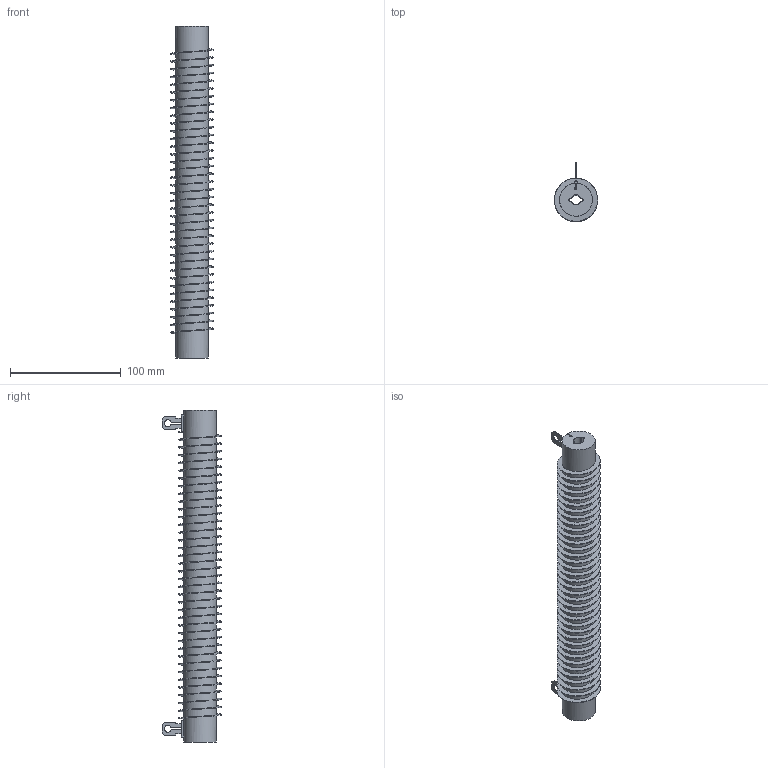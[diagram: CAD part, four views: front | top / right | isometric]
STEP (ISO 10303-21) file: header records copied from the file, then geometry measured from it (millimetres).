
FILE_DESCRIPTION(/* description */ (''),/* implementation_level */ '2;1');
FILE_NAME(/* name */ 'C:\_Vault\Dati\CATALOGO\RCPO-RSPO\RCPO-RSPO 152-420\CPO0420.stp',/* time_stamp */ '2014-01-22T16:38:44+01:00',/* author */ ('stefano'),/* organization */ (''),/* preprocessor_version */ 'ST-DEVELOPER v15.2',/* originating_system */ 'Autodesk Inventor 2014',/* authorisation */ '');
FILE_SCHEMA (('AUTOMOTIVE_DESIGN { 1 0 10303 214 3 1 1 }'));
Length unit declared in the file: millimetre
Products named in the file (1): CPO0420
Bounding box: 39 x 53.5 x 300 mm (x, y, z)
Volume: 188096.6 mm3; surface area: 82615.3 mm2
Topology: 1 solids, 1 shells, 120 faces, 360 edges, 239 vertices
Faces by surface type: plane 66, cylinder 52, bspline 2
Full cylindrical faces by diameter (mm): 29.6 x37
Entity records: 9516 total; most frequent: CARTESIAN_POINT 7050, ORIENTED_EDGE 498, DIRECTION 470, EDGE_CURVE 248, LINE 184, VECTOR 184, VERTEX_POINT 165, AXIS2_PLACEMENT_3D 143
